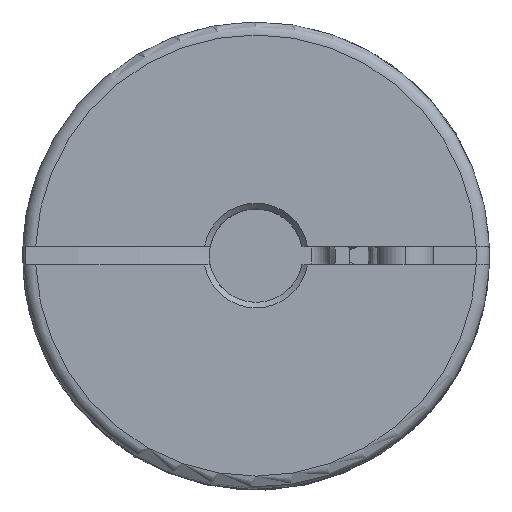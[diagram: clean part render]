
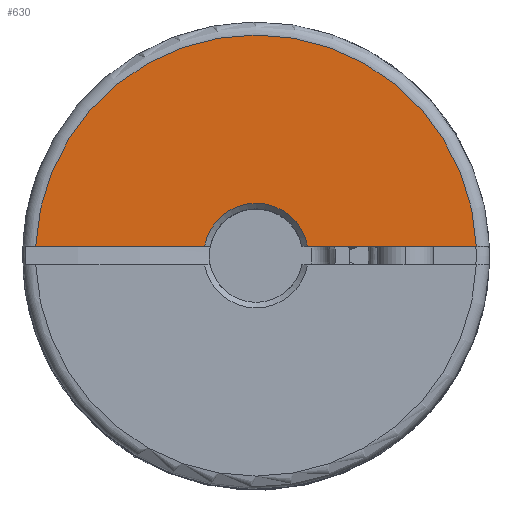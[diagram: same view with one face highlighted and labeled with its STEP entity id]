
A CAD part, top view. The second image highlights one B-rep face of the part: STEP entity #630.
In plain terms, the highlighted planar face has unit normal (0, 0, 1).
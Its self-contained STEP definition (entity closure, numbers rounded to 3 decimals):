
#51 = VERTEX_POINT ( 'NONE', #6278 ) ;
#106 = VERTEX_POINT ( 'NONE', #6288 ) ;
#287 = AXIS2_PLACEMENT_3D ( 'NONE', #2389, #2390, #2391 ) ;
#303 = AXIS2_PLACEMENT_3D ( 'NONE', #2602, #2603, #2604 ) ;
#630 = ADVANCED_FACE ( 'NONE', ( #6086 ), #2058, .T. ) ;
#1003 = EDGE_CURVE ( 'NONE', #1664, #51, #7613, .T. ) ;
#1051 = EDGE_CURVE ( 'NONE', #1727, #51, #7651, .T. ) ;
#1052 = EDGE_CURVE ( 'NONE', #1727, #106, #7650, .T. ) ;
#1053 = EDGE_CURVE ( 'NONE', #1664, #106, #7652, .T. ) ;
#1499 = AXIS2_PLACEMENT_3D ( 'NONE', #2057, #2062, #2063 ) ;
#1664 = VERTEX_POINT ( 'NONE', #4436 ) ;
#1727 = VERTEX_POINT ( 'NONE', #4499 ) ;
#2057 = CARTESIAN_POINT ( 'NONE',  ( 0., 0., 15.625 ) ) ;
#2058 = PLANE ( 'NONE',  #1499 ) ;
#2062 = DIRECTION ( 'NONE',  ( 0., 0., 1. ) ) ;
#2063 = DIRECTION ( 'NONE',  ( 1., 0., 0. ) ) ;
#2389 = CARTESIAN_POINT ( 'NONE',  ( 0., 0., 15.625 ) ) ;
#2390 = DIRECTION ( 'NONE',  ( 0., 0., 1. ) ) ;
#2391 = DIRECTION ( 'NONE',  ( 1., 0., 0. ) ) ;
#2587 = CARTESIAN_POINT ( 'NONE',  ( 0., 0.5, 15.625 ) ) ;
#2591 = CARTESIAN_POINT ( 'NONE',  ( 0., 0.5, 15.625 ) ) ;
#2592 = DIRECTION ( 'NONE',  ( -1., 0., 0. ) ) ;
#2601 = DIRECTION ( 'NONE',  ( -1., 0., 0. ) ) ;
#2602 = CARTESIAN_POINT ( 'NONE',  ( 0., 0., 15.625 ) ) ;
#2603 = DIRECTION ( 'NONE',  ( 0., 0., -1. ) ) ;
#2604 = DIRECTION ( 'NONE',  ( 1., 0., 0. ) ) ;
#2695 = EDGE_LOOP ( 'NONE', ( #5056, #5057, #5058, #5059 ) ) ;
#4436 = CARTESIAN_POINT ( 'NONE',  ( 11.789, 0.5, 15.625 ) ) ;
#4499 = CARTESIAN_POINT ( 'NONE',  ( -2.755, 0.5, 15.625 ) ) ;
#5056 = ORIENTED_EDGE ( 'NONE', *, *, #1051, .F. ) ;
#5057 = ORIENTED_EDGE ( 'NONE', *, *, #1052, .T. ) ;
#5058 = ORIENTED_EDGE ( 'NONE', *, *, #1053, .F. ) ;
#5059 = ORIENTED_EDGE ( 'NONE', *, *, #1003, .T. ) ;
#6086 = FACE_OUTER_BOUND ( 'NONE', #2695, .T. ) ;
#6278 = CARTESIAN_POINT ( 'NONE',  ( -11.789, 0.5, 15.625 ) ) ;
#6288 = CARTESIAN_POINT ( 'NONE',  ( 2.755, 0.5, 15.625 ) ) ;
#7613 = CIRCLE ( 'NONE', #287, 11.8 ) ;
#7649 = VECTOR ( 'NONE', #2601, 1000. ) ;
#7650 = CIRCLE ( 'NONE', #303, 2.8 ) ;
#7651 = LINE ( 'NONE', #2591, #7649 ) ;
#7652 = LINE ( 'NONE', #2587, #7654 ) ;
#7654 = VECTOR ( 'NONE', #2592, 1000. ) ;
